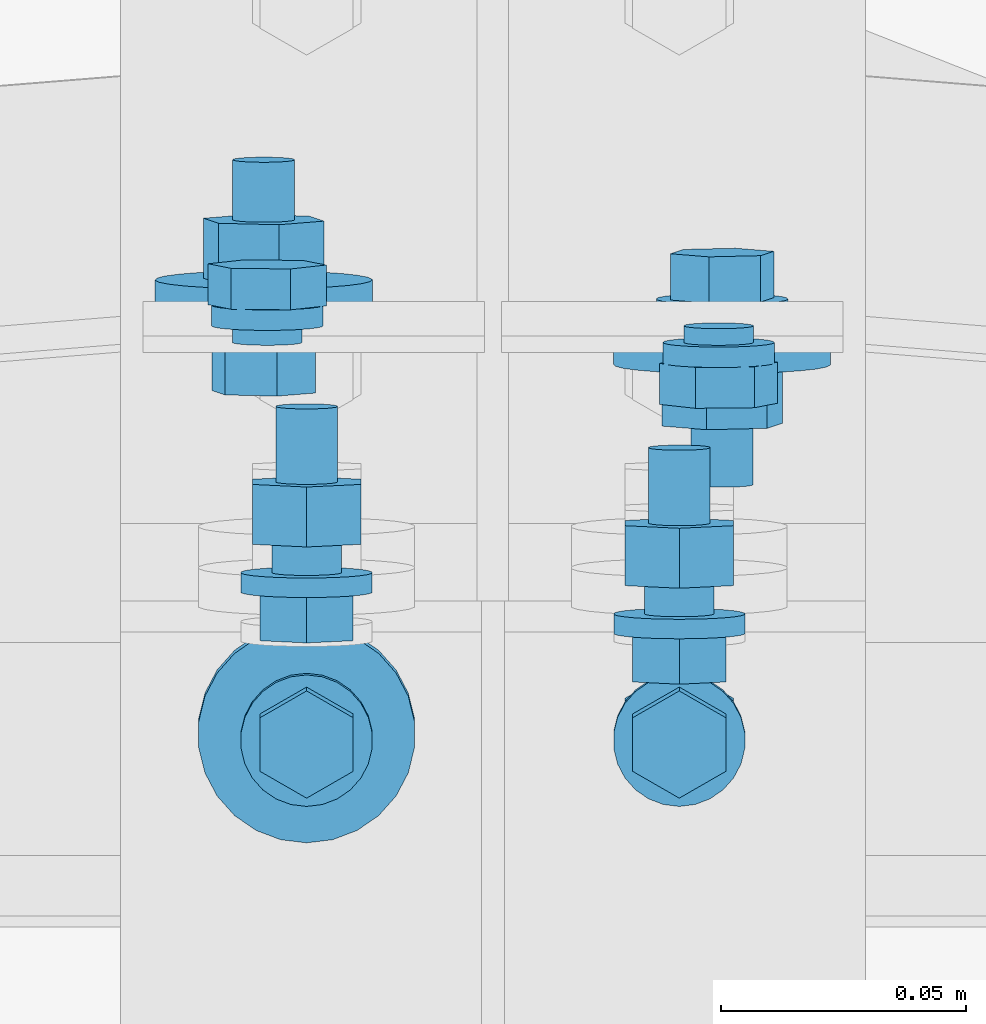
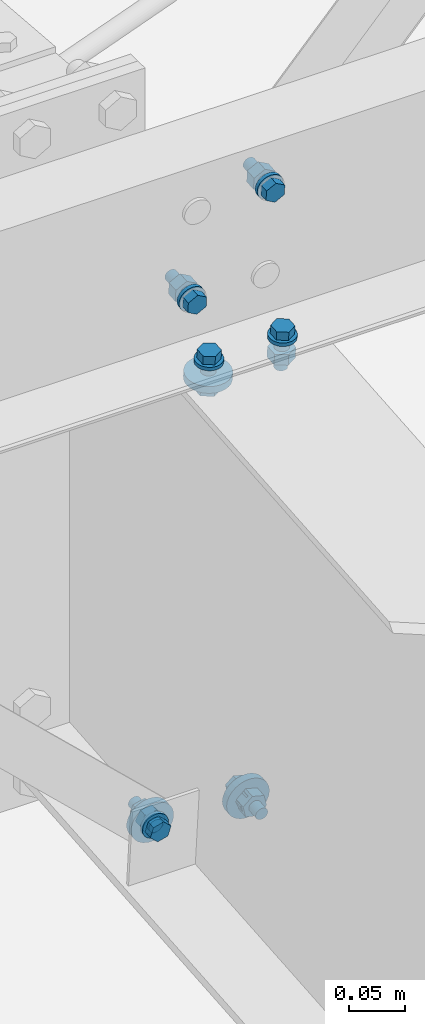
# One storey, part 142 of 185: 8 mechanical fasteners, 5 elements without a shape of their own.
"""IFC2X3 building model written with IfcOpenShell, lengths in millimetres."""

from ifc_helpers import new_model, si_unit, frame, origin_with_axes, origin_2d_with_axis, place, context, subcontext, project, spatial, polyline, circle, outline, extrude, source, transform, mapped, material, type_object, element, aggregate, save


model = new_model("IFC2X3")

# Units and contexts
model_context = context("Model", 3, precision=1e-05, world=origin_with_axes())
body_context = subcontext(model_context, "Body", "Model", "MODEL_VIEW")
ifc_project = project(units=[si_unit("LENGTHUNIT", "METRE", prefix="MILLI"), si_unit("AREAUNIT", "SQUARE_METRE"), si_unit("VOLUMEUNIT", "CUBIC_METRE"), si_unit("MASSUNIT", "GRAM", prefix="KILO"), si_unit("TIMEUNIT", "SECOND"), si_unit("PLANEANGLEUNIT", "RADIAN"), si_unit("SOLIDANGLEUNIT", "STERADIAN"), si_unit("THERMODYNAMICTEMPERATUREUNIT", "DEGREE_CELSIUS"), si_unit("LUMINOUSINTENSITYUNIT", "LUMEN")], contexts=[model_context])

# Site, building, storey
site_placement = place(None, origin_with_axes())
site = spatial("IfcSite", under=ifc_project, at=site_placement, Name="Undefined", CompositionType="ELEMENT")
building_placement = place(site_placement, origin_with_axes())
building = spatial("IfcBuilding", under=site, at=building_placement, Name="Undefined", CompositionType="ELEMENT")
storey_placement = place(building_placement, origin_with_axes())
storey = spatial("IfcBuildingStorey", under=building, at=storey_placement, Name="Undefined", CompositionType="ELEMENT", Elevation=0.0)

# Assembly, mechanical fastener
assembly_1_placement = place(storey_placement, origin_with_axes())
assembly_1 = element("IfcElementAssembly", 1, at=assembly_1_placement, inside=storey, Name="Steel Assembly", AssemblyPlace="NOTDEFINED", PredefinedType="RIGID_FRAME")
ifc_material_1 = material(Name="Undefined")
discrete_accessory_type = type_object("IfcDiscreteAccessoryType", Name="Bolt assembly")
shared_shape_1 = source(origin_with_axes(), body_context, "Body", "SweptSolid", [
    extrude(circle(Radius=7.14374971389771, at=origin_2d_with_axis()), frame((0.0, -1.59000001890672, 0.0), z_axis=(0.0, 1.0, 0.0), x_axis=(1.0, 0.0, 0.0)), (0.0, 0.0, 1.0), 1.7),
    extrude(outline(polyline([(10.9985221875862, 0.0), (5.4992610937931, 9.52499961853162), (-5.4992610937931, 9.52499961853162), (-10.9985221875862, 0.0), (-5.4992610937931, -9.52499961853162), (5.4992610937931, -9.52499961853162), (10.9985221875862, 0.0)])), frame((0.0, -15.0837496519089, 0.0), z_axis=(0.0, 1.0, 0.0), x_axis=(1.0, 0.0, 0.0)), (0.0, 0.0, 1.0), 9.5),
    extrude(circle(Radius=6.34999990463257, at=origin_2d_with_axis()), frame((0.0, -5.5587500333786, 0.0), z_axis=(0.0, 1.0, 0.0), x_axis=(1.0, 0.0, 0.0)), (0.0, 0.0, 1.0), 38.1),
    extrude(circle(Radius=13.4937496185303, at=origin_2d_with_axis()), frame((0.0, -5.5587500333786, 0.0), z_axis=(0.0, 1.0, 0.0), x_axis=(1.0, 0.0, 0.0)), (0.0, 0.0, 1.0), 4.0),
    extrude(circle(Radius=22.2250003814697, at=origin_2d_with_axis()), frame((0.0, 0.0, 0.0), z_axis=(0.0, 1.0, 0.0), x_axis=(1.0, 0.0, 0.0)), (0.0, 0.0, 1.0), 7.9),
    extrude(outline(polyline([(12.8316099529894, 0.0), (6.4158049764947, 11.1125001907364), (-6.4158049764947, 11.1125001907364), (-12.8316099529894, 0.0), (-6.4158049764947, -11.1125001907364), (6.4158049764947, -11.1125001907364), (12.8316099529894, 0.0)])), frame((0.0, 7.93750000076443, 0.0), z_axis=(0.0, 1.0, 0.0), x_axis=(1.0, 0.0, 0.0)), (0.0, 0.0, 1.0), 12.3),
])
mechanical_fastener_1_placement = place(assembly_1_placement, frame((30145.8744956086, 15761.3452081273, 6647.08460517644), z_axis=(0.697745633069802, 0.0594892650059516, -0.713871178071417), x_axis=(0.716345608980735, -0.0579446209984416, 0.695335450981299)))
mechanical_fastener_1 = element("IfcMechanicalFastener", 2, at=mechanical_fastener_1_placement, type_object=discrete_accessory_type, material=ifc_material_1, Name="Bolt assembly", NominalDiameter=12.6999998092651, NominalLength=38.0999984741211, context=body_context, shape_type="MappedRepresentation", body=[
    mapped(shared_shape_1, transform((0.0, 0.0, 0.0))),
])
aggregate(assembly_1, [mechanical_fastener_1])

assembly_2_placement = place(storey_placement, origin_with_axes())
assembly_2 = element("IfcElementAssembly", 3, at=assembly_2_placement, inside=storey, Name="Steel Assembly", AssemblyPlace="NOTDEFINED", PredefinedType="RIGID_FRAME")
shared_shape_2 = source(origin_with_axes(), body_context, "Body", "SweptSolid", [
    extrude(circle(Radius=7.14374971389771, at=origin_2d_with_axis()), frame((0.0, 0.0, 0.0), z_axis=(0.0, 1.0, 0.0), x_axis=(1.0, 0.0, 0.0)), (0.0, 0.0, 1.0), 1.7),
    extrude(outline(polyline([(10.9985221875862, 0.0), (5.4992610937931, 9.52499961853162), (-5.4992610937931, 9.52499961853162), (-10.9985221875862, 0.0), (-5.4992610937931, -9.52499961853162), (5.4992610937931, -9.52499961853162), (10.9985221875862, 0.0)])), frame((0.0, -13.4937496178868, 0.0), z_axis=(0.0, 1.0, 0.0), x_axis=(1.0, 0.0, 0.0)), (0.0, 0.0, 1.0), 9.5),
    extrude(circle(Radius=6.34999990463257, at=origin_2d_with_axis()), frame((0.0, -3.96874999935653, 0.0), z_axis=(0.0, 1.0, 0.0), x_axis=(1.0, 0.0, 0.0)), (0.0, 0.0, 1.0), 38.1),
    extrude(circle(Radius=13.4937496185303, at=origin_2d_with_axis()), frame((0.0, -3.96874999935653, 0.0), z_axis=(0.0, 1.0, 0.0), x_axis=(1.0, 0.0, 0.0)), (0.0, 0.0, 1.0), 4.0),
    extrude(circle(Radius=22.2250003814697, at=origin_2d_with_axis()), frame((0.0, 1.5900000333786, 0.0), z_axis=(0.0, 1.0, 0.0), x_axis=(1.0, 0.0, 0.0)), (0.0, 0.0, 1.0), 7.9),
    extrude(outline(polyline([(12.8316099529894, 0.0), (6.4158049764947, 11.1125001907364), (-6.4158049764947, 11.1125001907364), (-12.8316099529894, 0.0), (-6.4158049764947, -11.1125001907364), (6.4158049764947, -11.1125001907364), (12.8316099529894, 0.0)])), frame((0.0, 9.5275000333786, 0.0), z_axis=(0.0, 1.0, 0.0), x_axis=(1.0, 0.0, 0.0)), (0.0, 0.0, 1.0), 12.3),
])
mechanical_fastener_2_placement = place(assembly_2_placement, frame((30052.1255043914, 15761.3452081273, 6647.08460517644), z_axis=(-0.697745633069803, 0.0594892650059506, -0.713871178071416), x_axis=(-0.716345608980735, -0.0579446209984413, 0.6953354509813)))
mechanical_fastener_2 = element("IfcMechanicalFastener", 4, at=mechanical_fastener_2_placement, type_object=discrete_accessory_type, material=ifc_material_1, Name="Bolt assembly", NominalDiameter=12.6999998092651, NominalLength=38.0999984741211, context=body_context, shape_type="MappedRepresentation", body=[
    mapped(shared_shape_2, transform((0.0, 0.0, 0.0))),
])
aggregate(assembly_2, [mechanical_fastener_2])

# Assembly, mechanical fasteners
assembly_3_placement = place(storey_placement, origin_with_axes())
assembly_3 = element("IfcElementAssembly", 5, at=assembly_3_placement, inside=storey, Name="Steel Assembly", AssemblyPlace="NOTDEFINED", PredefinedType="RIGID_FRAME")
ifc_material_2 = material(Name="7990")
shared_shape_3 = source(origin_with_axes(), body_context, "Body", "SweptSolid", [
    extrude(circle(Radius=7.14374971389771, at=origin_2d_with_axis()), frame((0.0, -3.41600000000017, 0.0), z_axis=(0.0, 1.0, 0.0), x_axis=(1.0, 0.0, 0.0)), (0.0, 0.0, 1.0), 3.5),
    extrude(circle(Radius=11.4299998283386, at=origin_2d_with_axis()), frame((0.0, 0.0, 0.0), z_axis=(0.0, 1.0, 0.0), x_axis=(1.0, 0.0, 0.0)), (0.0, 0.0, 1.0), 4.2),
    extrude(outline(polyline([(12.171698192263, 0.0), (6.08584909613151, 10.5409998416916), (-6.08584909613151, 10.5409998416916), (-12.171698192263, 0.0), (-6.08584909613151, -10.5409998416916), (6.08584909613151, -10.5409998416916), (12.171698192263, 0.0)])), frame((0.0, 4.1909999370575, 0.0), z_axis=(0.0, 1.0, 0.0), x_axis=(1.0, 0.0, 0.0)), (0.0, 0.0, 1.0), 8.4),
])
mechanical_fastener_3_placement = place(assembly_3_placement, frame((30052.84185, 15761.4031527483, 6646.38926972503), z_axis=(0.921635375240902, 0.0322263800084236, -0.386716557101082), x_axis=(-0.388056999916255, 0.0765376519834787, -0.9184518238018)))
mechanical_fastener_3 = element("IfcMechanicalFastener", 6, at=mechanical_fastener_3_placement, type_object=discrete_accessory_type, material=ifc_material_2, Name="Bolt assembly", NominalDiameter=12.6999998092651, NominalLength=38.0999984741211, context=body_context, shape_type="MappedRepresentation", body=[
    mapped(shared_shape_3, transform((0.0, 0.0, 0.0))),
])
shared_shape_4 = source(origin_with_axes(), body_context, "Body", "SweptSolid", [
    extrude(circle(Radius=7.14374971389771, at=origin_2d_with_axis()), frame((0.0, 0.0, 0.0), z_axis=(0.0, 1.0, 0.0), x_axis=(1.0, 0.0, 0.0)), (0.0, 0.0, 1.0), 3.5),
    extrude(circle(Radius=11.4299998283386, at=origin_2d_with_axis()), frame((0.0, 3.41600000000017, 0.0), z_axis=(0.0, 1.0, 0.0), x_axis=(1.0, 0.0, 0.0)), (0.0, 0.0, 1.0), 4.2),
    extrude(outline(polyline([(12.171698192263, 0.0), (6.08584909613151, 10.5409998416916), (-6.08584909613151, 10.5409998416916), (-12.171698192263, 0.0), (-6.08584909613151, -10.5409998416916), (6.08584909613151, -10.5409998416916), (12.171698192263, 0.0)])), frame((0.0, 7.60699993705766, 0.0), z_axis=(0.0, 1.0, 0.0), x_axis=(1.0, 0.0, 0.0)), (0.0, 0.0, 1.0), 8.4),
])
mechanical_fastener_4_placement = place(assembly_3_placement, frame((30145.15815, 15761.4031527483, 6646.38926972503), z_axis=(-0.921635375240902, 0.0322263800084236, -0.386716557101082), x_axis=(0.388056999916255, 0.0765376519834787, -0.9184518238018)))
mechanical_fastener_4 = element("IfcMechanicalFastener", 7, at=mechanical_fastener_4_placement, type_object=discrete_accessory_type, material=ifc_material_2, Name="Bolt assembly", NominalDiameter=12.6999998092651, NominalLength=38.0999984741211, context=body_context, shape_type="MappedRepresentation", body=[
    mapped(shared_shape_4, transform((0.0, 0.0, 0.0))),
])
aggregate(assembly_3, [mechanical_fastener_4, mechanical_fastener_3])

assembly_4_placement = place(storey_placement, origin_with_axes())
assembly_4 = element("IfcElementAssembly", 8, at=assembly_4_placement, inside=storey, Name="Steel Assembly", AssemblyPlace="NOTDEFINED", PredefinedType="RIGID_FRAME")
shared_shape_5 = source(origin_with_axes(), body_context, "Body", "SweptSolid", [
    extrude(circle(Radius=7.14374971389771, at=origin_2d_with_axis()), frame((0.0, 0.0, 0.0), z_axis=(0.0, 1.0, 0.0), x_axis=(1.0, 0.0, 0.0)), (0.0, 0.0, 1.0), 6.5),
    extrude(outline(polyline([(10.9985221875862, 0.0), (5.4992610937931, 9.52499961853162), (-5.4992610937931, 9.52499961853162), (-10.9985221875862, 0.0), (-5.4992610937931, -9.52499961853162), (5.4992610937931, -9.52499961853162), (10.9985221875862, 0.0)])), frame((0.0, -13.4937496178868, 0.0), z_axis=(0.0, 1.0, 0.0), x_axis=(1.0, 0.0, 0.0)), (0.0, 0.0, 1.0), 9.5),
    extrude(circle(Radius=6.34999990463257, at=origin_2d_with_axis()), frame((0.0, -3.96874999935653, 0.0), z_axis=(0.0, 1.0, 0.0), x_axis=(1.0, 0.0, 0.0)), (0.0, 0.0, 1.0), 38.1),
    extrude(circle(Radius=13.4937496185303, at=origin_2d_with_axis()), frame((0.0, -3.96874999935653, 0.0), z_axis=(0.0, 1.0, 0.0), x_axis=(1.0, 0.0, 0.0)), (0.0, 0.0, 1.0), 4.0),
    extrude(outline(polyline([(12.8316099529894, 0.0), (6.4158049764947, 11.1125001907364), (-6.4158049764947, 11.1125001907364), (-12.8316099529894, 0.0), (-6.4158049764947, -11.1125001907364), (6.4158049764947, -11.1125001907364), (12.8316099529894, 0.0)])), frame((0.0, 6.35000000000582, 0.0), z_axis=(0.0, 1.0, 0.0), x_axis=(1.0, 0.0, 0.0)), (0.0, 0.0, 1.0), 12.3),
])
mechanical_fastener_5_placement = place(assembly_4_placement, frame((30060.9, 15710.9094083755, 7252.31420220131), z_axis=(1.0, 0.0, 0.0), x_axis=(0.0, 0.0830454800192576, -0.996545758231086)))
mechanical_fastener_5 = element("IfcMechanicalFastener", 9, at=mechanical_fastener_5_placement, type_object=discrete_accessory_type, material=ifc_material_1, Name="Bolt assembly", NominalDiameter=12.6999998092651, NominalLength=38.0999984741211, context=body_context, shape_type="MappedRepresentation", body=[
    mapped(shared_shape_5, transform((0.0, 0.0, 0.0))),
])
shared_shape_6 = source(origin_with_axes(), body_context, "Body", "SweptSolid", [
    extrude(circle(Radius=7.14374971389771, at=origin_2d_with_axis()), frame((0.0, 0.0, 0.0), z_axis=(0.0, 1.0, 0.0), x_axis=(1.0, 0.0, 0.0)), (0.0, 0.0, 1.0), 6.4),
    extrude(outline(polyline([(10.9985221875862, 0.0), (5.4992610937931, 9.52499961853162), (-5.4992610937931, 9.52499961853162), (-10.9985221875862, 0.0), (-5.4992610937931, -9.52499961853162), (5.4992610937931, -9.52499961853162), (10.9985221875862, 0.0)])), frame((0.0, -13.4937496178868, 0.0), z_axis=(0.0, 1.0, 0.0), x_axis=(1.0, 0.0, 0.0)), (0.0, 0.0, 1.0), 9.5),
    extrude(circle(Radius=6.34999990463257, at=origin_2d_with_axis()), frame((0.0, -3.96874999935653, 0.0), z_axis=(0.0, 1.0, 0.0), x_axis=(1.0, 0.0, 0.0)), (0.0, 0.0, 1.0), 38.1),
    extrude(circle(Radius=13.4937496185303, at=origin_2d_with_axis()), frame((0.0, -3.96874999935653, 0.0), z_axis=(0.0, 1.0, 0.0), x_axis=(1.0, 0.0, 0.0)), (0.0, 0.0, 1.0), 4.0),
    extrude(outline(polyline([(12.8316099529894, 0.0), (6.4158049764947, 11.1125001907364), (-6.4158049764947, 11.1125001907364), (-12.8316099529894, 0.0), (-6.4158049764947, -11.1125001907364), (6.4158049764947, -11.1125001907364), (12.8316099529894, 0.0)])), frame((0.0, 6.35000000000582, 0.0), z_axis=(0.0, 1.0, 0.0), x_axis=(1.0, 0.0, 0.0)), (0.0, 0.0, 1.0), 12.3),
])
mechanical_fastener_6_placement = place(assembly_4_placement, frame((30137.1, 15702.4719876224, 7353.56325123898), z_axis=(1.0, 0.0, 0.0), x_axis=(0.0, 0.0830454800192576, -0.996545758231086)))
mechanical_fastener_6 = element("IfcMechanicalFastener", 10, at=mechanical_fastener_6_placement, type_object=discrete_accessory_type, material=ifc_material_1, Name="Bolt assembly", NominalDiameter=12.6999998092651, NominalLength=38.0999984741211, context=body_context, shape_type="MappedRepresentation", body=[
    mapped(shared_shape_6, transform((0.0, 0.0, 0.0))),
])
aggregate(assembly_4, [mechanical_fastener_5, mechanical_fastener_6])

assembly_5_placement = place(storey_placement, origin_with_axes())
assembly_5 = element("IfcElementAssembly", 11, at=assembly_5_placement, inside=storey, Name="Steel Assembly", AssemblyPlace="NOTDEFINED", PredefinedType="RIGID_FRAME")
shared_shape_7 = source(origin_with_axes(), body_context, "Body", "SweptSolid", [
    extrude(circle(Radius=7.14374971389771, at=origin_2d_with_axis()), frame((0.0, -0.0238014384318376, 0.0), z_axis=(0.0, 1.0, 0.0), x_axis=(1.0, 0.0, 0.0)), (0.0, 0.0, 1.0), 8.0),
    extrude(circle(Radius=7.14374971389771, at=origin_2d_with_axis()), frame((0.0, -3.08000006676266, 0.0), z_axis=(0.0, 1.0, 0.0), x_axis=(1.0, 0.0, 0.0)), (0.0, 0.0, 1.0), 3.2),
    extrude(circle(Radius=7.14374971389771, at=origin_2d_with_axis()), frame((0.0, -3.08000006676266, 0.0), z_axis=(0.0, 1.0, 0.0), x_axis=(1.0, 0.0, 0.0)), (0.0, 0.0, 1.0), 3.2),
    extrude(outline(polyline([(10.9985221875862, 0.0), (5.4992610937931, 9.52499961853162), (-5.4992610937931, 9.52499961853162), (-10.9985221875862, 0.0), (-5.4992610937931, -9.52499961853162), (5.4992610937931, -9.52499961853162), (10.9985221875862, 0.0)])), frame((0.0, -16.6737496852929, 0.0), z_axis=(0.0, 1.0, 0.0), x_axis=(1.0, 0.0, 0.0)), (0.0, 0.0, 1.0), 9.5),
    extrude(circle(Radius=6.34999990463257, at=origin_2d_with_axis()), frame((0.0, -7.14875006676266, 0.0), z_axis=(0.0, 1.0, 0.0), x_axis=(1.0, 0.0, 0.0)), (0.0, 0.0, 1.0), 38.1),
    extrude(circle(Radius=13.4937496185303, at=origin_2d_with_axis()), frame((0.0, -7.14875006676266, 0.0), z_axis=(0.0, 1.0, 0.0), x_axis=(1.0, 0.0, 0.0)), (0.0, 0.0, 1.0), 4.0),
    extrude(circle(Radius=22.2250003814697, at=origin_2d_with_axis()), frame((0.0, 7.95019856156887, 0.0), z_axis=(0.0, 1.0, 0.0), x_axis=(1.0, 0.0, 0.0)), (0.0, 0.0, 1.0), 7.9),
    extrude(outline(polyline([(12.8316099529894, 0.0), (6.4158049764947, 11.1125001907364), (-6.4158049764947, 11.1125001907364), (-12.8316099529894, 0.0), (-6.4158049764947, -11.1125001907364), (6.4158049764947, -11.1125001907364), (12.8316099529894, 0.0)])), frame((0.0, 15.8876985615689, 0.0), z_axis=(0.0, 1.0, 0.0), x_axis=(1.0, 0.0, 0.0)), (0.0, 0.0, 1.0), 12.3),
])
mechanical_fastener_7_placement = place(assembly_5_placement, frame((30060.9, 15677.1597253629, 7198.52564490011), z_axis=(1.0, 0.0, 0.0), x_axis=(0.0, -0.996545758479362, -0.0830454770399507)))
mechanical_fastener_7 = element("IfcMechanicalFastener", 12, at=mechanical_fastener_7_placement, type_object=discrete_accessory_type, material=ifc_material_1, Name="Bolt assembly", NominalDiameter=12.6999998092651, NominalLength=38.0999984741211, context=body_context, shape_type="MappedRepresentation", body=[
    mapped(shared_shape_7, transform((0.0, 0.0, 0.0))),
])
shared_shape_8 = source(origin_with_axes(), body_context, "Body", "SweptSolid", [
    extrude(circle(Radius=7.14374971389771, at=origin_2d_with_axis()), frame((0.0, -0.0238014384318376, 0.0), z_axis=(0.0, 1.0, 0.0), x_axis=(1.0, 0.0, 0.0)), (0.0, 0.0, 1.0), 8.0),
    extrude(circle(Radius=7.14374971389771, at=origin_2d_with_axis()), frame((0.0, -3.08000006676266, 0.0), z_axis=(0.0, 1.0, 0.0), x_axis=(1.0, 0.0, 0.0)), (0.0, 0.0, 1.0), 3.2),
    extrude(circle(Radius=7.14374971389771, at=origin_2d_with_axis()), frame((0.0, -3.08000006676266, 0.0), z_axis=(0.0, 1.0, 0.0), x_axis=(1.0, 0.0, 0.0)), (0.0, 0.0, 1.0), 3.2),
    extrude(outline(polyline([(10.9985221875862, 0.0), (5.4992610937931, 9.52499961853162), (-5.4992610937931, 9.52499961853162), (-10.9985221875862, 0.0), (-5.4992610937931, -9.52499961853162), (5.4992610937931, -9.52499961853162), (10.9985221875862, 0.0)])), frame((0.0, -16.6737496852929, 0.0), z_axis=(0.0, 1.0, 0.0), x_axis=(1.0, 0.0, 0.0)), (0.0, 0.0, 1.0), 9.5),
    extrude(circle(Radius=6.34999990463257, at=origin_2d_with_axis()), frame((0.0, -7.14875006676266, 0.0), z_axis=(0.0, 1.0, 0.0), x_axis=(1.0, 0.0, 0.0)), (0.0, 0.0, 1.0), 38.1),
    extrude(circle(Radius=13.4937496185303, at=origin_2d_with_axis()), frame((0.0, -7.14875006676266, 0.0), z_axis=(0.0, 1.0, 0.0), x_axis=(1.0, 0.0, 0.0)), (0.0, 0.0, 1.0), 4.0),
    extrude(outline(polyline([(12.8316099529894, 0.0), (6.4158049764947, 11.1125001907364), (-6.4158049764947, 11.1125001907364), (-12.8316099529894, 0.0), (-6.4158049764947, -11.1125001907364), (6.4158049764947, -11.1125001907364), (12.8316099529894, 0.0)])), frame((0.0, 7.95019856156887, 0.0), z_axis=(0.0, 1.0, 0.0), x_axis=(1.0, 0.0, 0.0)), (0.0, 0.0, 1.0), 12.3),
])
mechanical_fastener_8_placement = place(assembly_5_placement, frame((30137.1, 15677.1597253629, 7198.52564490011), z_axis=(1.0, 0.0, 0.0), x_axis=(0.0, -0.996545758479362, -0.0830454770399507)))
mechanical_fastener_8 = element("IfcMechanicalFastener", 13, at=mechanical_fastener_8_placement, type_object=discrete_accessory_type, material=ifc_material_1, Name="Bolt assembly", NominalDiameter=12.6999998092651, NominalLength=38.0999984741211, context=body_context, shape_type="MappedRepresentation", body=[
    mapped(shared_shape_8, transform((0.0, 0.0, 0.0))),
])
aggregate(assembly_5, [mechanical_fastener_7, mechanical_fastener_8])

save(model, "model.ifc")
